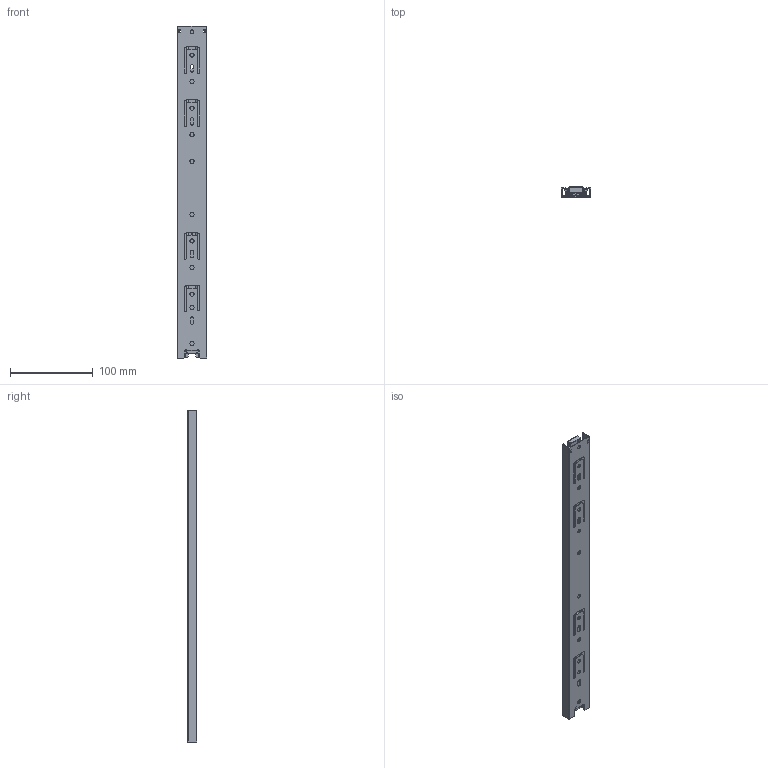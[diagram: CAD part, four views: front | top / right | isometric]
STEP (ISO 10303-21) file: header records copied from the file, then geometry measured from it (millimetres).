
FILE_DESCRIPTION(/* description */ (''),/* implementation_level */ '2;1');
FILE_NAME(/* name */ 'C:\Users\dmitruk\Documents\WORK\\X2\041D0410041F042004100412041B042F042E042904180415\X0\\Шариковые\h35 L-400 AKS LIGHT.stp',/* time_stamp */ '2020-07-27T15:04:21+03:00',/* author */ ('dmitruk'),/* organization */ (''),/* preprocessor_version */ 'ST-DEVELOPER v16.5',/* originating_system */ 'Autodesk Inventor 2017',/* authorisation */ '');
FILE_SCHEMA (('AUTOMOTIVE_DESIGN { 1 0 10303 214 3 1 1 }'));
Length unit declared in the file: millimetre
Products named in the file (5): h35 L-400 AKS LIGHT; h35 L-400 AKS_11; h35 L-400 AKS_12; h35 L-350_13; h35 L-400 AKS_2
Assembly tree (4 placements, depth 2):
  h35 L-400 AKS LIGHT
    h35 L-400 AKS_11
    h35 L-400 AKS_12
    h35 L-350_13
    h35 L-400 AKS_2
Bounding box: 35 x 12.02 x 400 mm (x, y, z)
Volume: 53519.9 mm3; surface area: 107561.1 mm2
Topology: 4 solids, 4 shells, 618 faces, 1823 edges, 1256 vertices
Faces by surface type: plane 343, cylinder 235, sphere 40
Full cylindrical faces by diameter (mm): 4.5 x4, 4.9 x11
Entity records: 21151 total; most frequent: CARTESIAN_POINT 3895, DIRECTION 3625, ORIENTED_EDGE 3522, EDGE_CURVE 1761, AXIS2_PLACEMENT_3D 1215, LINE 1195, VECTOR 1195, VERTEX_POINT 1165
